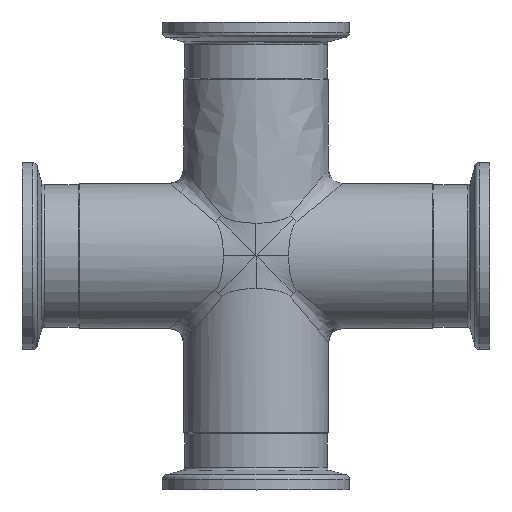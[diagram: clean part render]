
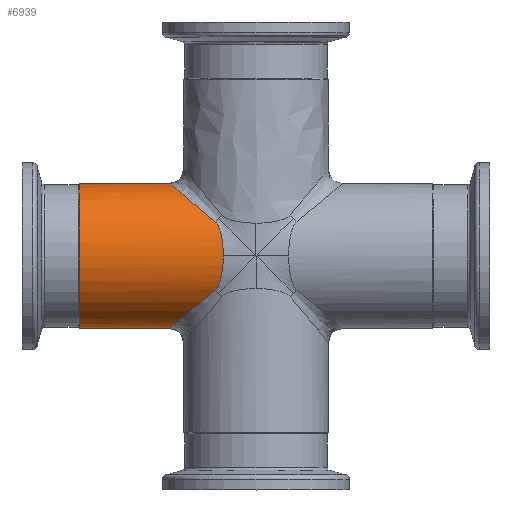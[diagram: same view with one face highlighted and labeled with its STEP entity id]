
A CAD part, top view. The second image highlights one B-rep face of the part: STEP entity #6939.
In plain terms, the highlighted cylindrical face has radius 15.5 mm (diameter 31 mm), a full revolution.
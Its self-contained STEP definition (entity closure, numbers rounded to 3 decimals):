
#616=CARTESIAN_POINT('',(-8.779,7.355,13.644));
#617=VERTEX_POINT('',#616);
#625=CARTESIAN_POINT('',(-6.988,0.,15.5));
#626=VERTEX_POINT('',#625);
#627=CARTESIAN_POINT('',(-6.988,0.,15.5));
#628=CARTESIAN_POINT('',(-6.988,0.251,15.5));
#629=CARTESIAN_POINT('',(-6.995,0.753,15.488));
#630=CARTESIAN_POINT('',(-7.027,1.499,15.433));
#631=CARTESIAN_POINT('',(-7.08,2.229,15.345));
#632=CARTESIAN_POINT('',(-7.154,2.938,15.225));
#633=CARTESIAN_POINT('',(-7.25,3.617,15.077));
#634=CARTESIAN_POINT('',(-7.366,4.261,14.907));
#635=CARTESIAN_POINT('',(-7.504,4.865,14.721));
#636=CARTESIAN_POINT('',(-7.663,5.422,14.525));
#637=CARTESIAN_POINT('',(-7.843,5.928,14.325));
#638=CARTESIAN_POINT('',(-8.044,6.379,14.129));
#639=CARTESIAN_POINT('',(-8.267,6.771,13.945));
#640=CARTESIAN_POINT('',(-8.511,7.102,13.779));
#641=CARTESIAN_POINT('',(-8.687,7.278,13.685));
#642=CARTESIAN_POINT('',(-8.779,7.355,13.644));
#643=B_SPLINE_CURVE_WITH_KNOTS('',3,(#627,#628,#629,#630,#631,#632,#633,#634,#635,#636,#637,#638,#639,#640,#641,#642),.UNSPECIFIED.,.F.,.U.,(4,1,1,1,1,1,1,1,1,1,1,1,1,4),(0.0,0.077,0.154,0.231,0.308,0.385,0.462,0.538,0.615,0.692,0.769,0.846,0.923,1.0),.UNSPECIFIED.);
#644=EDGE_CURVE('',#626,#617,#643,.T.);
#875=CARTESIAN_POINT('',(-8.779,-7.355,13.644));
#876=VERTEX_POINT('',#875);
#877=CARTESIAN_POINT('',(-6.988,0.,15.5));
#878=CARTESIAN_POINT('',(-6.988,-0.251,15.5));
#879=CARTESIAN_POINT('',(-6.995,-0.753,15.488));
#880=CARTESIAN_POINT('',(-7.027,-1.499,15.433));
#881=CARTESIAN_POINT('',(-7.08,-2.229,15.345));
#882=CARTESIAN_POINT('',(-7.154,-2.938,15.225));
#883=CARTESIAN_POINT('',(-7.25,-3.617,15.077));
#884=CARTESIAN_POINT('',(-7.366,-4.261,14.907));
#885=CARTESIAN_POINT('',(-7.504,-4.865,14.721));
#886=CARTESIAN_POINT('',(-7.663,-5.422,14.525));
#887=CARTESIAN_POINT('',(-7.843,-5.928,14.325));
#888=CARTESIAN_POINT('',(-8.044,-6.379,14.129));
#889=CARTESIAN_POINT('',(-8.267,-6.771,13.945));
#890=CARTESIAN_POINT('',(-8.511,-7.102,13.779));
#891=CARTESIAN_POINT('',(-8.687,-7.278,13.685));
#892=CARTESIAN_POINT('',(-8.779,-7.355,13.644));
#893=B_SPLINE_CURVE_WITH_KNOTS('',3,(#877,#878,#879,#880,#881,#882,#883,#884,#885,#886,#887,#888,#889,#890,#891,#892),.UNSPECIFIED.,.F.,.U.,(4,1,1,1,1,1,1,1,1,1,1,1,1,4),(0.0,0.077,0.154,0.231,0.308,0.385,0.462,0.538,0.615,0.692,0.769,0.846,0.923,1.0),.UNSPECIFIED.);
#894=EDGE_CURVE('',#626,#876,#893,.T.);
#2784=CARTESIAN_POINT('',(-8.779,-7.355,-13.644));
#2785=VERTEX_POINT('',#2784);
#2793=CARTESIAN_POINT('',(-7.512,-4.874,-14.714));
#2794=VERTEX_POINT('',#2793);
#2795=CARTESIAN_POINT('',(-8.779,-7.355,-13.644));
#2796=CARTESIAN_POINT('',(-8.481,-7.105,-13.778));
#2797=CARTESIAN_POINT('',(-8.219,-6.734,-13.97));
#2798=CARTESIAN_POINT('',(-7.996,-6.262,-14.179));
#2799=CARTESIAN_POINT('',(-7.808,-5.866,-14.354));
#2800=CARTESIAN_POINT('',(-7.647,-5.399,-14.54));
#2801=CARTESIAN_POINT('',(-7.512,-4.874,-14.714));
#2802=B_SPLINE_CURVE_WITH_KNOTS('',3,(#2795,#2796,#2797,#2798,#2799,#2800,#2801),.UNSPECIFIED.,.F.,.U.,(4,3,4),(0.0,0.125,0.23),.UNSPECIFIED.);
#2803=EDGE_CURVE('',#2785,#2794,#2802,.T.);
#2805=CARTESIAN_POINT('',(-7.372,-4.268,-14.901));
#2806=VERTEX_POINT('',#2805);
#2807=CARTESIAN_POINT('',(-7.372,-4.268,-14.901));
#2808=CARTESIAN_POINT('',(-7.414,-4.471,-14.843));
#2809=CARTESIAN_POINT('',(-7.46,-4.674,-14.78));
#2810=CARTESIAN_POINT('',(-7.51,-4.869,-14.716));
#2811=CARTESIAN_POINT('',(-7.512,-4.874,-14.714));
#2812=B_SPLINE_CURVE_WITH_KNOTS('',3,(#2807,#2808,#2809,#2810,#2811),.UNSPECIFIED.,.F.,.U.,(4,1,4),(0.463,0.538,0.541),.UNSPECIFIED.);
#2813=EDGE_CURVE('',#2806,#2794,#2812,.T.);
#2815=CARTESIAN_POINT('',(-6.988,0.,-15.5));
#2816=VERTEX_POINT('',#2815);
#2817=CARTESIAN_POINT('',(-7.372,-4.268,-14.901));
#2818=CARTESIAN_POINT('',(-7.255,-3.693,-15.066));
#2819=CARTESIAN_POINT('',(-7.164,-3.064,-15.209));
#2820=CARTESIAN_POINT('',(-7.1,-2.405,-15.312));
#2821=CARTESIAN_POINT('',(-7.026,-1.632,-15.434));
#2822=CARTESIAN_POINT('',(-6.988,-0.816,-15.5));
#2823=CARTESIAN_POINT('',(-6.988,0.,-15.5));
#2824=B_SPLINE_CURVE_WITH_KNOTS('',3,(#2817,#2818,#2819,#2820,#2821,#2822,#2823),.UNSPECIFIED.,.F.,.U.,(4,3,4),(0.268,0.375,0.5),.UNSPECIFIED.);
#2825=EDGE_CURVE('',#2806,#2816,#2824,.T.);
#3056=CARTESIAN_POINT('',(-7.37,4.255,-14.905));
#3057=VERTEX_POINT('',#3056);
#3058=CARTESIAN_POINT('',(-6.988,0.,-15.5));
#3059=CARTESIAN_POINT('',(-6.988,0.816,-15.5));
#3060=CARTESIAN_POINT('',(-7.026,1.632,-15.434));
#3061=CARTESIAN_POINT('',(-7.1,2.405,-15.312));
#3062=CARTESIAN_POINT('',(-7.163,3.059,-15.21));
#3063=CARTESIAN_POINT('',(-7.253,3.683,-15.068));
#3064=CARTESIAN_POINT('',(-7.37,4.255,-14.905));
#3065=B_SPLINE_CURVE_WITH_KNOTS('',3,(#3058,#3059,#3060,#3061,#3062,#3063,#3064),.UNSPECIFIED.,.F.,.U.,(4,3,4),(0.5,0.625,0.731),.UNSPECIFIED.);
#3066=EDGE_CURVE('',#2816,#3057,#3065,.T.);
#3068=CARTESIAN_POINT('',(-7.794,5.783,-14.381));
#3069=VERTEX_POINT('',#3068);
#3070=CARTESIAN_POINT('',(-7.37,4.255,-14.905));
#3071=CARTESIAN_POINT('',(-7.412,4.462,-14.845));
#3072=CARTESIAN_POINT('',(-7.504,4.865,-14.721));
#3073=CARTESIAN_POINT('',(-7.648,5.37,-14.543));
#3074=CARTESIAN_POINT('',(-7.75,5.664,-14.428));
#3075=CARTESIAN_POINT('',(-7.794,5.783,-14.381));
#3076=B_SPLINE_CURVE_WITH_KNOTS('',3,(#3070,#3071,#3072,#3073,#3074,#3075),.UNSPECIFIED.,.F.,.U.,(4,1,1,4),(0.462,0.538,0.615,0.671),.UNSPECIFIED.);
#3077=EDGE_CURVE('',#3057,#3069,#3076,.T.);
#3079=CARTESIAN_POINT('',(-8.779,7.355,-13.644));
#3080=VERTEX_POINT('',#3079);
#3081=CARTESIAN_POINT('',(-7.794,5.783,-14.381));
#3082=CARTESIAN_POINT('',(-7.858,5.952,-14.313));
#3083=CARTESIAN_POINT('',(-7.925,6.112,-14.245));
#3084=CARTESIAN_POINT('',(-7.996,6.262,-14.179));
#3085=CARTESIAN_POINT('',(-8.219,6.734,-13.97));
#3086=CARTESIAN_POINT('',(-8.481,7.105,-13.778));
#3087=CARTESIAN_POINT('',(-8.779,7.355,-13.644));
#3088=B_SPLINE_CURVE_WITH_KNOTS('',3,(#3081,#3082,#3083,#3084,#3085,#3086,#3087),.UNSPECIFIED.,.F.,.U.,(4,3,4),(0.835,0.875,1.0),.UNSPECIFIED.);
#3089=EDGE_CURVE('',#3069,#3080,#3088,.T.);
#5813=CARTESIAN_POINT('',(-37.75,-15.5,0.));
#5814=VERTEX_POINT('',#5813);
#5815=CARTESIAN_POINT('',(-37.75,15.5,0.0));
#5816=VERTEX_POINT('',#5815);
#5817=CARTESIAN_POINT('',(-37.75,0.,0.0));
#5818=DIRECTION('',(1.0,0.0,0.0));
#5819=DIRECTION('',(0.0,1.0,0.0));
#5820=AXIS2_PLACEMENT_3D('',#5817,#5818,#5819);
#5821=CIRCLE('',#5820,15.5);
#5822=EDGE_CURVE('',#5814,#5816,#5821,.T.);
#5824=CARTESIAN_POINT('',(-37.75,0.,0.0));
#5825=DIRECTION('',(1.0,0.0,0.0));
#5826=DIRECTION('',(0.0,1.0,0.0));
#5827=AXIS2_PLACEMENT_3D('',#5824,#5825,#5826);
#5828=CIRCLE('',#5827,15.5);
#5829=EDGE_CURVE('',#5816,#5814,#5828,.T.);
#6535=CARTESIAN_POINT('',(0.0,0.0,0.0));
#6536=DIRECTION('',(0.642,-0.767,0.));
#6537=DIRECTION('',(-0.767,-0.642,0.0));
#6538=AXIS2_PLACEMENT_3D('',#6535,#6536,#6537);
#6539=ELLIPSE('',#6538,24.135,15.5);
#6540=EDGE_CURVE('',#876,#2785,#6539,.T.);
#6829=CARTESIAN_POINT('',(0.0,0.0,0.0));
#6830=DIRECTION('',(0.642,0.767,0.));
#6831=DIRECTION('',(-0.767,0.642,0.0));
#6832=AXIS2_PLACEMENT_3D('',#6829,#6830,#6831);
#6833=ELLIPSE('',#6832,24.135,15.5);
#6834=EDGE_CURVE('',#3080,#617,#6833,.T.);
#6918=CARTESIAN_POINT('',(20.125,0.,0.0));
#6919=DIRECTION('',(1.0,0.,0.0));
#6920=DIRECTION('',(0.0,1.0,0.0));
#6921=AXIS2_PLACEMENT_3D('',#6918,#6919,#6920);
#6922=CYLINDRICAL_SURFACE('',#6921,15.5);
#6923=ORIENTED_EDGE('',*,*,#5822,.T.);
#6924=ORIENTED_EDGE('',*,*,#5829,.T.);
#6925=EDGE_LOOP('',(#6923,#6924));
#6926=FACE_OUTER_BOUND('',#6925,.T.);
#6927=ORIENTED_EDGE('',*,*,#644,.T.);
#6928=ORIENTED_EDGE('',*,*,#6834,.F.);
#6929=ORIENTED_EDGE('',*,*,#3089,.F.);
#6930=ORIENTED_EDGE('',*,*,#3077,.F.);
#6931=ORIENTED_EDGE('',*,*,#3066,.F.);
#6932=ORIENTED_EDGE('',*,*,#2825,.F.);
#6933=ORIENTED_EDGE('',*,*,#2813,.T.);
#6934=ORIENTED_EDGE('',*,*,#2803,.F.);
#6935=ORIENTED_EDGE('',*,*,#6540,.F.);
#6936=ORIENTED_EDGE('',*,*,#894,.F.);
#6937=EDGE_LOOP('',(#6927,#6928,#6929,#6930,#6931,#6932,#6933,#6934,#6935,#6936));
#6938=FACE_BOUND('',#6937,.T.);
#6939=ADVANCED_FACE('',(#6926,#6938),#6922,.T.);
